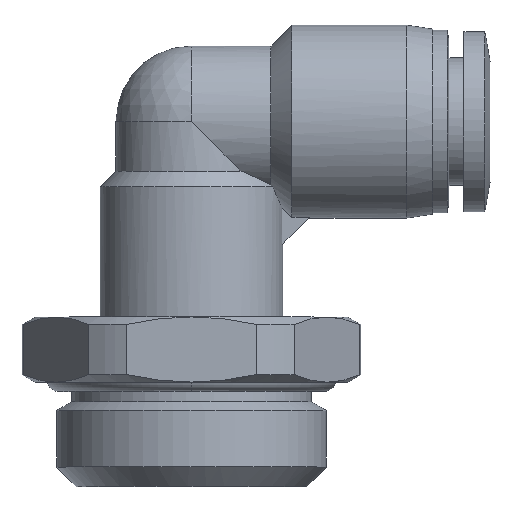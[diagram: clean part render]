
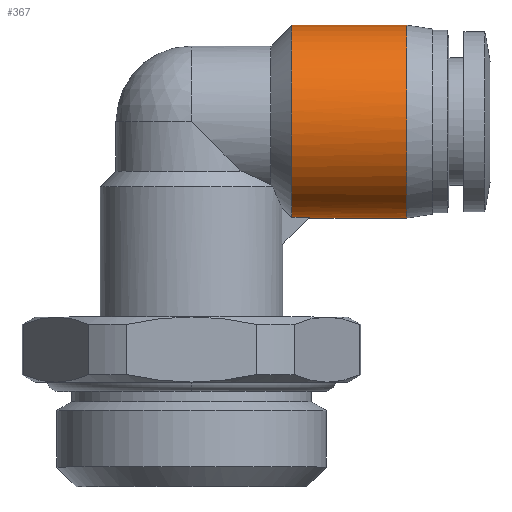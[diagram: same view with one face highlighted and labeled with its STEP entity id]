
A CAD part, top view. The second image highlights one B-rep face of the part: STEP entity #367.
In plain terms, the highlighted cylindrical face has radius 7.4 mm (diameter 14.8 mm), a partial arc.
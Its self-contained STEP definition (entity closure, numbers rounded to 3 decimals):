
#6 = ORIENTED_EDGE ( 'NONE', *, *, #2778, .T. ) ;
#90 = B_SPLINE_CURVE_WITH_KNOTS ( 'NONE', 3,
 ( #440, #1238, #3621, #2875, #4242, #3241, #3556, #128, #2854, #1176, #1150, #1823, #2899, #509, #2588, #2522, #830, #1553 ),
 .UNSPECIFIED., .F., .F.,
 ( 4, 2, 2, 2, 2, 2, 2, 2, 4 ),
 ( 0., 0.063, 0.125, 0.188, 0.25, 0.313, 0.375, 0.438, 0.5 ),
 .UNSPECIFIED. ) ;
#124 = EDGE_LOOP ( 'NONE', ( #2258, #6, #2783, #3300, #3309, #3795 ) ) ;
#128 = CARTESIAN_POINT ( 'NONE',  ( 16.5, 16.937, 7.207 ) ) ;
#158 = DIRECTION ( 'NONE',  ( 0., 1., 0. ) ) ;
#220 = CARTESIAN_POINT ( 'NONE',  ( 7.7, 22.4, 0. ) ) ;
#316 = LINE ( 'NONE', #2791, #3951 ) ;
#367 = ADVANCED_FACE ( 'NONE', ( #2193 ), #1564, .T. ) ;
#440 = CARTESIAN_POINT ( 'NONE',  ( 16.5, 22.4, 0. ) ) ;
#509 = CARTESIAN_POINT ( 'NONE',  ( 16.5, 9.082, 4.548 ) ) ;
#580 = EDGE_CURVE ( 'NONE', #4357, #3654, #90, .T. ) ;
#611 = B_SPLINE_CURVE_WITH_KNOTS ( 'NONE', 3,
 ( #220, #2663, #1628, #1290, #3015, #4387, #2344, #3669, #931, #1943, #953, #977, #3310, #1581, #2946, #1317, #2685, #4047 ),
 .UNSPECIFIED., .F., .F.,
 ( 4, 2, 2, 2, 2, 2, 2, 2, 4 ),
 ( 0.5, 0.563, 0.625, 0.688, 0.75, 0.813, 0.875, 0.938, 1. ),
 .UNSPECIFIED. ) ;
#707 = CARTESIAN_POINT ( 'NONE',  ( 7.7, 7.668, 1. ) ) ;
#816 = EDGE_CURVE ( 'NONE', #3193, #1778, #3319, .T. ) ;
#830 = CARTESIAN_POINT ( 'NONE',  ( 16.5, 7.6, 0.969 ) ) ;
#931 = CARTESIAN_POINT ( 'NONE',  ( 7.7, 16.426, 7.32 ) ) ;
#953 = CARTESIAN_POINT ( 'NONE',  ( 7.7, 13.64, 7.333 ) ) ;
#977 = CARTESIAN_POINT ( 'NONE',  ( 7.7, 11.874, 6.771 ) ) ;
#1040 = CARTESIAN_POINT ( 'NONE',  ( 9., 7.6, 0. ) ) ;
#1150 = CARTESIAN_POINT ( 'NONE',  ( 16.5, 13.063, 7.207 ) ) ;
#1176 = CARTESIAN_POINT ( 'NONE',  ( 16.5, 14.031, 7.4 ) ) ;
#1200 = CARTESIAN_POINT ( 'NONE',  ( 16.5, 7.6, 0. ) ) ;
#1203 = VERTEX_POINT ( 'NONE', #2126 ) ;
#1238 = CARTESIAN_POINT ( 'NONE',  ( 16.5, 22.4, 0.969 ) ) ;
#1282 = CARTESIAN_POINT ( 'NONE',  ( 7.7, 7.668, 1. ) ) ;
#1290 = CARTESIAN_POINT ( 'NONE',  ( 7.7, 21.544, 3.578 ) ) ;
#1317 = CARTESIAN_POINT ( 'NONE',  ( 7.7, 8.093, 2.813 ) ) ;
#1327 = CARTESIAN_POINT ( 'NONE',  ( 16.5, 22.4, 0. ) ) ;
#1334 = CARTESIAN_POINT ( 'NONE',  ( 9.068, 7.668, 1. ) ) ;
#1394 = CARTESIAN_POINT ( 'NONE',  ( 9., 7.6, 0.333 ) ) ;
#1497 = LINE ( 'NONE', #2598, #4251 ) ;
#1553 = CARTESIAN_POINT ( 'NONE',  ( 16.5, 7.6, 0. ) ) ;
#1564 = CYLINDRICAL_SURFACE ( 'NONE', #4405, 7.4 ) ;
#1581 = CARTESIAN_POINT ( 'NONE',  ( 7.7, 9.607, 5.151 ) ) ;
#1628 = CARTESIAN_POINT ( 'NONE',  ( 7.7, 22.224, 1.853 ) ) ;
#1778 = VERTEX_POINT ( 'NONE', #707 ) ;
#1823 = CARTESIAN_POINT ( 'NONE',  ( 16.5, 11.273, 6.466 ) ) ;
#1883 = DIRECTION ( 'NONE',  ( 1., 0., 0. ) ) ;
#1943 = CARTESIAN_POINT ( 'NONE',  ( 7.7, 14.576, 7.446 ) ) ;
#2093 = EDGE_CURVE ( 'NONE', #1203, #1778, #611, .T. ) ;
#2126 = CARTESIAN_POINT ( 'NONE',  ( 7.7, 22.4, 0. ) ) ;
#2193 = FACE_OUTER_BOUND ( 'NONE', #124, .T. ) ;
#2258 = ORIENTED_EDGE ( 'NONE', *, *, #2501, .F. ) ;
#2264 = CARTESIAN_POINT ( 'NONE',  ( 8.156, 7.668, 1. ) ) ;
#2344 = CARTESIAN_POINT ( 'NONE',  ( 7.7, 19.013, 6.286 ) ) ;
#2501 = EDGE_CURVE ( 'NONE', #3156, #3193, #3356, .T. ) ;
#2522 = CARTESIAN_POINT ( 'NONE',  ( 16.5, 7.793, 1.937 ) ) ;
#2588 = CARTESIAN_POINT ( 'NONE',  ( 16.5, 8.534, 3.727 ) ) ;
#2598 = CARTESIAN_POINT ( 'NONE',  ( 12.1, 22.4, 0. ) ) ;
#2663 = CARTESIAN_POINT ( 'NONE',  ( 7.7, 22.4, 0.927 ) ) ;
#2685 = CARTESIAN_POINT ( 'NONE',  ( 7.7, 7.793, 1.918 ) ) ;
#2778 = EDGE_CURVE ( 'NONE', #3156, #3654, #316, .T. ) ;
#2783 = ORIENTED_EDGE ( 'NONE', *, *, #580, .F. ) ;
#2791 = CARTESIAN_POINT ( 'NONE',  ( 12.1, 7.6, 0. ) ) ;
#2854 = CARTESIAN_POINT ( 'NONE',  ( 16.5, 15.969, 7.4 ) ) ;
#2875 = CARTESIAN_POINT ( 'NONE',  ( 16.5, 21.466, 3.727 ) ) ;
#2899 = CARTESIAN_POINT ( 'NONE',  ( 16.5, 10.452, 5.918 ) ) ;
#2946 = CARTESIAN_POINT ( 'NONE',  ( 7.7, 9., 4.429 ) ) ;
#3015 = CARTESIAN_POINT ( 'NONE',  ( 7.7, 21.04, 4.375 ) ) ;
#3145 = CARTESIAN_POINT ( 'NONE',  ( 9.023, 7.622, 0.667 ) ) ;
#3156 = VERTEX_POINT ( 'NONE', #3791 ) ;
#3193 = VERTEX_POINT ( 'NONE', #3373 ) ;
#3241 = CARTESIAN_POINT ( 'NONE',  ( 16.5, 19.548, 5.918 ) ) ;
#3300 = ORIENTED_EDGE ( 'NONE', *, *, #3311, .F. ) ;
#3309 = ORIENTED_EDGE ( 'NONE', *, *, #2093, .T. ) ;
#3310 = CARTESIAN_POINT ( 'NONE',  ( 7.7, 11.044, 6.322 ) ) ;
#3311 = EDGE_CURVE ( 'NONE', #1203, #4357, #1497, .T. ) ;
#3319 = B_SPLINE_CURVE_WITH_KNOTS ( 'NONE', 3,
 ( #3974, #4063, #2264, #1282 ),
 .UNSPECIFIED., .F., .F.,
 ( 4, 4 ),
 ( 0., 1. ),
 .UNSPECIFIED. ) ;
#3356 = B_SPLINE_CURVE_WITH_KNOTS ( 'NONE', 3,
 ( #1040, #1394, #3145, #1334 ),
 .UNSPECIFIED., .F., .F.,
 ( 4, 4 ),
 ( 0.5, 1. ),
 .UNSPECIFIED. ) ;
#3373 = CARTESIAN_POINT ( 'NONE',  ( 9.068, 7.668, 1. ) ) ;
#3556 = CARTESIAN_POINT ( 'NONE',  ( 16.5, 18.727, 6.466 ) ) ;
#3570 = CARTESIAN_POINT ( 'NONE',  ( 12.1, 15., 0. ) ) ;
#3621 = CARTESIAN_POINT ( 'NONE',  ( 16.5, 22.207, 1.937 ) ) ;
#3654 = VERTEX_POINT ( 'NONE', #1200 ) ;
#3669 = CARTESIAN_POINT ( 'NONE',  ( 7.7, 17.338, 7.082 ) ) ;
#3791 = CARTESIAN_POINT ( 'NONE',  ( 9., 7.6, 0. ) ) ;
#3795 = ORIENTED_EDGE ( 'NONE', *, *, #816, .F. ) ;
#3919 = DIRECTION ( 'NONE',  ( 1., 0., 0. ) ) ;
#3951 = VECTOR ( 'NONE', #4162, 1000. ) ;
#3974 = CARTESIAN_POINT ( 'NONE',  ( 9.068, 7.668, 1. ) ) ;
#4047 = CARTESIAN_POINT ( 'NONE',  ( 7.7, 7.668, 1. ) ) ;
#4063 = CARTESIAN_POINT ( 'NONE',  ( 8.612, 7.668, 1. ) ) ;
#4162 = DIRECTION ( 'NONE',  ( 1., 0., 0. ) ) ;
#4242 = CARTESIAN_POINT ( 'NONE',  ( 16.5, 20.918, 4.548 ) ) ;
#4251 = VECTOR ( 'NONE', #3919, 1000. ) ;
#4357 = VERTEX_POINT ( 'NONE', #1327 ) ;
#4387 = CARTESIAN_POINT ( 'NONE',  ( 7.7, 19.774, 5.73 ) ) ;
#4405 = AXIS2_PLACEMENT_3D ( 'NONE', #3570, #1883, #158 ) ;
